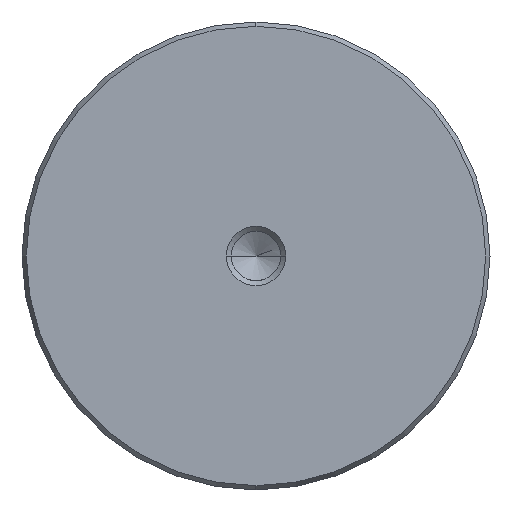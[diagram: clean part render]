
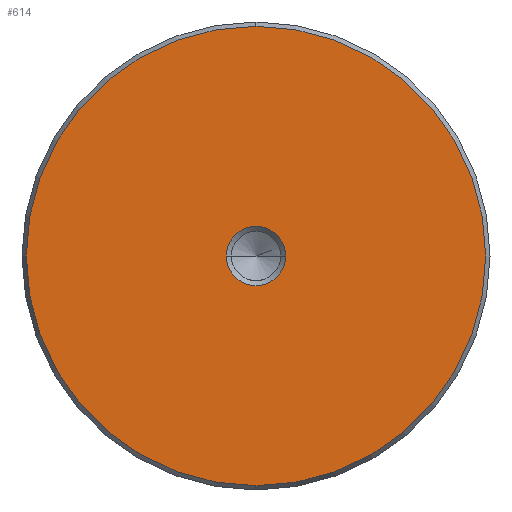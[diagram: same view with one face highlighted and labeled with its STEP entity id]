
A CAD part, left-side view. The second image highlights one B-rep face of the part: STEP entity #614.
In plain terms, the highlighted planar face has unit normal (-1, 0, 0).
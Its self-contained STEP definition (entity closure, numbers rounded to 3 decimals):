
#528=CARTESIAN_POINT('Vertex',(0.,0.,-30.923)) ;
#531=CARTESIAN_POINT('Axis2P3D Location',(0.,0.,0.)) ;
#535=CARTESIAN_POINT('Vertex',(0.,30.923,0.)) ;
#538=CARTESIAN_POINT('Axis2P3D Location',(0.,0.,0.)) ;
#542=CARTESIAN_POINT('Vertex',(0.,0.,30.923)) ;
#564=CARTESIAN_POINT('Axis2P3D Location',(0.,0.,0.)) ;
#568=CARTESIAN_POINT('Vertex',(0.,-30.923,0.)) ;
#571=CARTESIAN_POINT('Axis2P3D Location',(0.,0.,0.)) ;
#585=CARTESIAN_POINT('Axis2P3D Location',(0.,0.,0.)) ;
#596=CARTESIAN_POINT('Axis2P3D Location',(0.,0.,0.)) ;
#600=CARTESIAN_POINT('Vertex',(0.,4.,0.)) ;
#602=CARTESIAN_POINT('Vertex',(0.,-4.,0.)) ;
#605=CARTESIAN_POINT('Axis2P3D Location',(0.,0.,0.)) ;
#532=DIRECTION('Axis2P3D Direction',(1.,0.,-0.)) ;
#539=DIRECTION('Axis2P3D Direction',(1.,0.,-0.)) ;
#565=DIRECTION('Axis2P3D Direction',(1.,0.,-0.)) ;
#572=DIRECTION('Axis2P3D Direction',(1.,0.,-0.)) ;
#586=DIRECTION('Axis2P3D Direction',(1.,0.,-0.)) ;
#587=DIRECTION('Axis2P3D XDirection',(-0.,0.,-1.)) ;
#597=DIRECTION('Axis2P3D Direction',(1.,0.,-0.)) ;
#606=DIRECTION('Axis2P3D Direction',(1.,0.,-0.)) ;
#533=AXIS2_PLACEMENT_3D('Circle Axis2P3D',#531,#532,$) ;
#540=AXIS2_PLACEMENT_3D('Circle Axis2P3D',#538,#539,$) ;
#566=AXIS2_PLACEMENT_3D('Circle Axis2P3D',#564,#565,$) ;
#573=AXIS2_PLACEMENT_3D('Circle Axis2P3D',#571,#572,$) ;
#588=AXIS2_PLACEMENT_3D('Plane Axis2P3D',#585,#586,#587) ;
#598=AXIS2_PLACEMENT_3D('Circle Axis2P3D',#596,#597,$) ;
#607=AXIS2_PLACEMENT_3D('Circle Axis2P3D',#605,#606,$) ;
#591=ORIENTED_EDGE('',*,*,#537,.F.) ;
#592=ORIENTED_EDGE('',*,*,#575,.F.) ;
#593=ORIENTED_EDGE('',*,*,#570,.F.) ;
#594=ORIENTED_EDGE('',*,*,#544,.F.) ;
#611=ORIENTED_EDGE('',*,*,#604,.T.) ;
#612=ORIENTED_EDGE('',*,*,#609,.T.) ;
#613=FACE_BOUND('',#610,.T.) ;
#614=ADVANCED_FACE('720-63x250',(#595,#613),#589,.F.) ;
#534=CIRCLE('generated circle',#533,30.923) ;
#541=CIRCLE('generated circle',#540,30.923) ;
#567=CIRCLE('generated circle',#566,30.923) ;
#574=CIRCLE('generated circle',#573,30.923) ;
#599=CIRCLE('generated circle',#598,4.) ;
#608=CIRCLE('generated circle',#607,4.) ;
#537=EDGE_CURVE('',#529,#536,#534,.T.) ;
#544=EDGE_CURVE('',#536,#543,#541,.T.) ;
#570=EDGE_CURVE('',#543,#569,#567,.T.) ;
#575=EDGE_CURVE('',#569,#529,#574,.T.) ;
#604=EDGE_CURVE('',#601,#603,#599,.T.) ;
#609=EDGE_CURVE('',#603,#601,#608,.T.) ;
#590=EDGE_LOOP('',(#591,#592,#593,#594)) ;
#610=EDGE_LOOP('',(#611,#612)) ;
#595=FACE_OUTER_BOUND('',#590,.T.) ;
#589=PLANE('Plane',#588) ;
#529=VERTEX_POINT('',#528) ;
#536=VERTEX_POINT('',#535) ;
#543=VERTEX_POINT('',#542) ;
#569=VERTEX_POINT('',#568) ;
#601=VERTEX_POINT('',#600) ;
#603=VERTEX_POINT('',#602) ;
